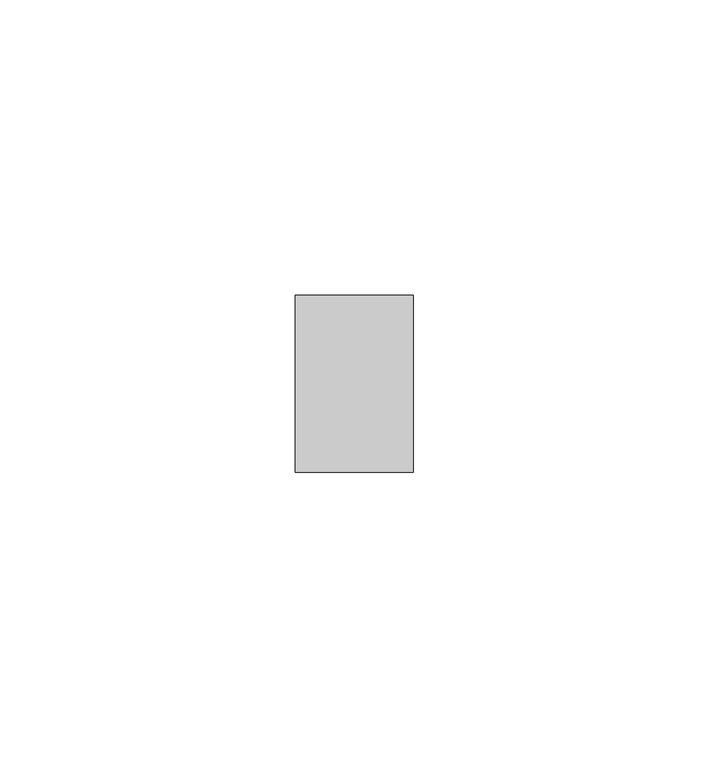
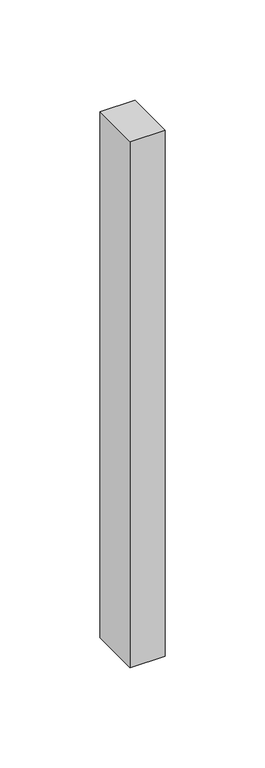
"""IFC4 building model written with IfcOpenShell, lengths in millimetres: member geometry, Прямоугольный импост : Квадрат 10 мм - Зазор между навесными плитами."""

from ifc_helpers import new_model, si_unit, frame, origin, place, context, project, spatial, polyline, outline, extrude, source, transform, mapped, element, save


def member_fc8a6798(model_context):
    return source(origin(), model_context, "Body", "SweptSolid", [
        extrude(outline(polyline([(0.0, 15.0), (0.0, -15.0), (-20.0, -15.0), (-20.0, 15.0), (0.0, 15.0)])), frame((0.0, 0.0, -320.0), z_axis=(0.0, 0.0, 1.0), x_axis=(1.0, 0.0, 0.0)), (0.0, 0.0, 1.0), 320.0),
    ])


if __name__ == "__main__":
    model = new_model("IFC4")
    model_context = context("Model", 3, world=origin())
    ifc_project = project(units=[si_unit("LENGTHUNIT", "METRE", prefix="MILLI")], contexts=[model_context])
    site = spatial("IfcSite", under=ifc_project)
    building = spatial("IfcBuilding", under=site)
    placement = place(None, origin())
    member_shape = member_fc8a6798(model_context)
    element("IfcMember", 1, ObjectType="Прямоугольный импост : Квадрат 10 мм - Зазор между навесными плитами", at=placement, inside=building, context=model_context, shape_type="MappedRepresentation", body=[
        mapped(member_shape, transform((0.0, 0.0, 0.0), x_axis=(1.0, 0.0, 0.0), y_axis=(0.0, 1.0, 0.0), z_axis=(0.0, 0.0, 1.0))),
    ])
    save(model, "model.ifc")
